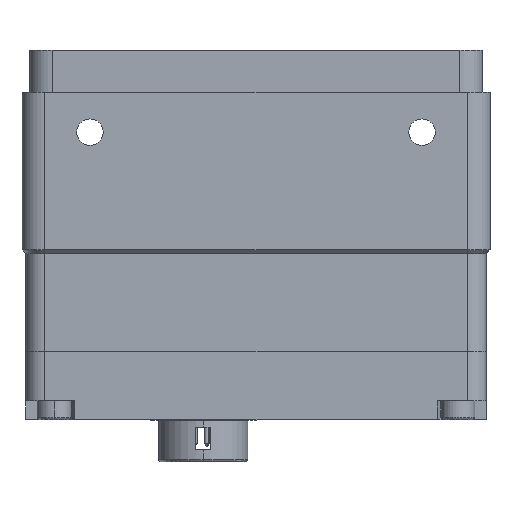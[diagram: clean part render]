
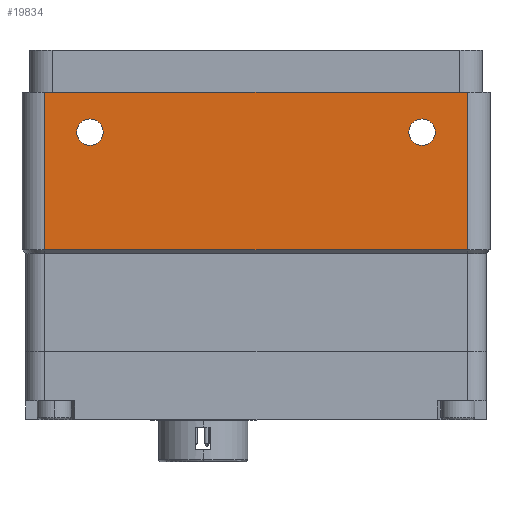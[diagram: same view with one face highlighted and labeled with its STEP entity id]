
A CAD part, left-side view. The second image highlights one B-rep face of the part: STEP entity #19834.
In plain terms, the highlighted planar face has unit normal (-1, 0, 0).
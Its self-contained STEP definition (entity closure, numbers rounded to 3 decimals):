
#570 = CARTESIAN_POINT ( 'NONE',  ( -31., 22., -8.9 ) ) ;
#682 = AXIS2_PLACEMENT_3D ( 'NONE', #12971, #4886, #10996 ) ;
#1006 = ORIENTED_EDGE ( 'NONE', *, *, #6693, .T. ) ;
#1152 = VERTEX_POINT ( 'NONE', #26229 ) ;
#1700 = CARTESIAN_POINT ( 'NONE',  ( -31., 28., -24.48 ) ) ;
#1910 = LINE ( 'NONE', #25496, #9364 ) ;
#2231 = EDGE_CURVE ( 'NONE', #11992, #9349, #1910, .T. ) ;
#3297 = EDGE_LOOP ( 'NONE', ( #9369, #26870 ) ) ;
#4886 = DIRECTION ( 'NONE',  ( 1., 0., 0. ) ) ;
#5021 = CARTESIAN_POINT ( 'NONE',  ( -31., 31., -3.6 ) ) ;
#5064 = ORIENTED_EDGE ( 'NONE', *, *, #17190, .T. ) ;
#6152 = EDGE_CURVE ( 'NONE', #25656, #23185, #23621, .T. ) ;
#6383 = CARTESIAN_POINT ( 'NONE',  ( -31., 28., -3.6 ) ) ;
#6693 = EDGE_CURVE ( 'NONE', #22680, #11992, #13889, .T. ) ;
#6879 = AXIS2_PLACEMENT_3D ( 'NONE', #26403, #9496, #11698 ) ;
#7052 = DIRECTION ( 'NONE',  ( 0., -1., 0. ) ) ;
#8139 = VECTOR ( 'NONE', #25550, 1000. ) ;
#8406 = FACE_BOUND ( 'NONE', #3297, .T. ) ;
#8705 = AXIS2_PLACEMENT_3D ( 'NONE', #570, #8993, #21176 ) ;
#8774 = LINE ( 'NONE', #5021, #8139 ) ;
#8993 = DIRECTION ( 'NONE',  ( -1., 0., 0. ) ) ;
#9045 = CARTESIAN_POINT ( 'NONE',  ( -31., 28., -30.46 ) ) ;
#9142 = DIRECTION ( 'NONE',  ( 0., 0., -1. ) ) ;
#9349 = VERTEX_POINT ( 'NONE', #10198 ) ;
#9364 = VECTOR ( 'NONE', #7052, 1000. ) ;
#9369 = ORIENTED_EDGE ( 'NONE', *, *, #12169, .F. ) ;
#9496 = DIRECTION ( 'NONE',  ( -1., 0., 0. ) ) ;
#9964 = ORIENTED_EDGE ( 'NONE', *, *, #19827, .F. ) ;
#10198 = CARTESIAN_POINT ( 'NONE',  ( -31., -28., -24.48 ) ) ;
#10640 = EDGE_CURVE ( 'NONE', #22680, #26849, #8774, .T. ) ;
#10996 = DIRECTION ( 'NONE',  ( 0., 0., 1. ) ) ;
#11083 = DIRECTION ( 'NONE',  ( 0., 0., -1. ) ) ;
#11505 = ORIENTED_EDGE ( 'NONE', *, *, #16682, .F. ) ;
#11698 = DIRECTION ( 'NONE',  ( 0., 0., -1. ) ) ;
#11992 = VERTEX_POINT ( 'NONE', #1700 ) ;
#12020 = CIRCLE ( 'NONE', #23922, 1.75 ) ;
#12169 = EDGE_CURVE ( 'NONE', #23185, #25656, #24113, .T. ) ;
#12834 = DIRECTION ( 'NONE',  ( 0., 0., 1. ) ) ;
#12971 = CARTESIAN_POINT ( 'NONE',  ( -31., 31., -30.46 ) ) ;
#13226 = DIRECTION ( 'NONE',  ( -1., 0., 0. ) ) ;
#13889 = LINE ( 'NONE', #9045, #19478 ) ;
#14670 = CARTESIAN_POINT ( 'NONE',  ( -31., -22., -7.15 ) ) ;
#14900 = FACE_OUTER_BOUND ( 'NONE', #17147, .T. ) ;
#16682 = EDGE_CURVE ( 'NONE', #20367, #1152, #17319, .T. ) ;
#16725 = EDGE_LOOP ( 'NONE', ( #9964, #11505 ) ) ;
#17009 = DIRECTION ( 'NONE',  ( 0., 0., -1. ) ) ;
#17147 = EDGE_LOOP ( 'NONE', ( #24554, #1006, #19658, #5064 ) ) ;
#17190 = EDGE_CURVE ( 'NONE', #9349, #26849, #26853, .T. ) ;
#17319 = CIRCLE ( 'NONE', #6879, 1.75 ) ;
#18776 = CARTESIAN_POINT ( 'NONE',  ( -31., -28., -30.46 ) ) ;
#18812 = CARTESIAN_POINT ( 'NONE',  ( -31., 22., -10.65 ) ) ;
#19182 = DIRECTION ( 'NONE',  ( -1., 0., 0. ) ) ;
#19478 = VECTOR ( 'NONE', #17009, 1000. ) ;
#19544 = CARTESIAN_POINT ( 'NONE',  ( -31., 22., -8.9 ) ) ;
#19658 = ORIENTED_EDGE ( 'NONE', *, *, #2231, .T. ) ;
#19827 = EDGE_CURVE ( 'NONE', #1152, #20367, #12020, .T. ) ;
#19834 = ADVANCED_FACE ( 'NONE', ( #23126, #8406, #14900 ), #21405, .F. ) ;
#20367 = VERTEX_POINT ( 'NONE', #14670 ) ;
#21176 = DIRECTION ( 'NONE',  ( 0., 0., -1. ) ) ;
#21225 = CARTESIAN_POINT ( 'NONE',  ( -31., -22., -8.9 ) ) ;
#21405 = PLANE ( 'NONE',  #682 ) ;
#22680 = VERTEX_POINT ( 'NONE', #6383 ) ;
#23126 = FACE_BOUND ( 'NONE', #16725, .T. ) ;
#23185 = VERTEX_POINT ( 'NONE', #18812 ) ;
#23572 = CARTESIAN_POINT ( 'NONE',  ( -31., -28., -3.6 ) ) ;
#23621 = CIRCLE ( 'NONE', #25556, 1.75 ) ;
#23922 = AXIS2_PLACEMENT_3D ( 'NONE', #21225, #19182, #11083 ) ;
#24113 = CIRCLE ( 'NONE', #8705, 1.75 ) ;
#24554 = ORIENTED_EDGE ( 'NONE', *, *, #10640, .F. ) ;
#25099 = CARTESIAN_POINT ( 'NONE',  ( -31., 22., -7.15 ) ) ;
#25496 = CARTESIAN_POINT ( 'NONE',  ( -31., 31., -24.48 ) ) ;
#25550 = DIRECTION ( 'NONE',  ( 0., -1., 0. ) ) ;
#25556 = AXIS2_PLACEMENT_3D ( 'NONE', #19544, #13226, #9142 ) ;
#25656 = VERTEX_POINT ( 'NONE', #25099 ) ;
#26170 = VECTOR ( 'NONE', #12834, 1000. ) ;
#26229 = CARTESIAN_POINT ( 'NONE',  ( -31., -22., -10.65 ) ) ;
#26403 = CARTESIAN_POINT ( 'NONE',  ( -31., -22., -8.9 ) ) ;
#26849 = VERTEX_POINT ( 'NONE', #23572 ) ;
#26853 = LINE ( 'NONE', #18776, #26170 ) ;
#26870 = ORIENTED_EDGE ( 'NONE', *, *, #6152, .F. ) ;
